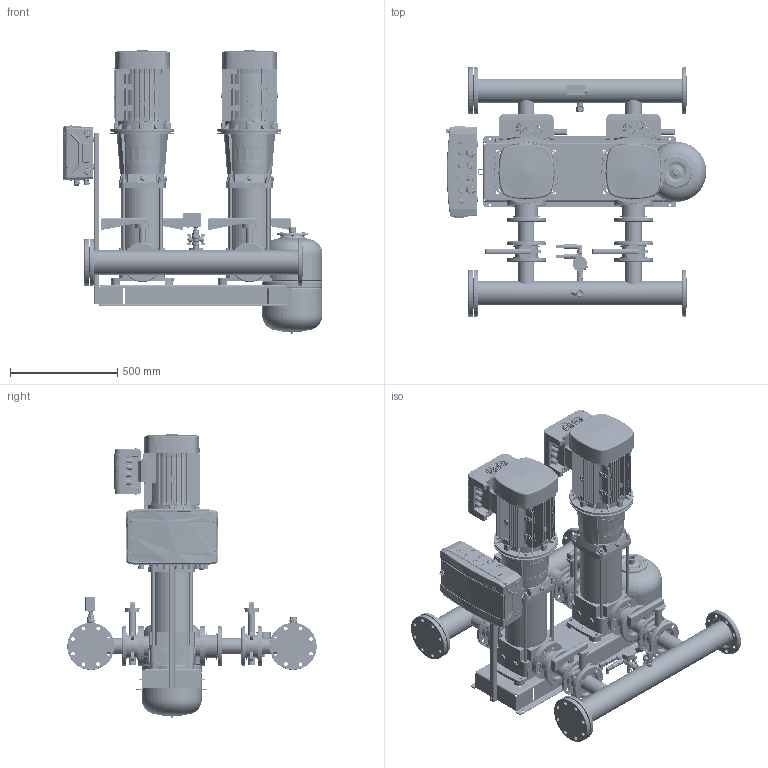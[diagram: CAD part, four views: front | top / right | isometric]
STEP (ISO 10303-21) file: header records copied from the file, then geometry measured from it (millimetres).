
FILE_DESCRIPTION(('CATIA V5 STEP Exchange','CAx-IF Rec.Pracs.--- Model Styling and Organization---1.4--- 2014-01-23','CAx-IF Rec.Pracs.---3D Tessellated Data Validation Properties---0.5---2014-09-14'),'2;1');
FILE_NAME('C:\Users\78432\YandexDisk\Drawings and 3D\3D Hydro Booster\Hydro-ME 3D\Hydro Models\Hydro ME 2 CRV32-xx\Hydro ME 2 CRVE32-4.stp','2023-09-20T13:30:07+00:00',('none'),('none'),'CATIA Version 5-6 Release 2019 SP6','CATIA V5 STEP AP242 v1','none');
FILE_SCHEMA(('AP242_MANAGED_MODEL_BASED_3D_ENGINEERING_MIM_LF {1 0 10303 442 1 1 4}'));
Products named in the file (52): Hydro ME 2 CRVE32-4; 92051011; CRV32-4 set; CRV 32-4_A_DIN_7.5kW; Base; Flange.1; Flange.2; Sleeve; Pumphead; Staybolt.1; Staybolt.2; Staybolt.3; Staybolt.4; AirVent; Motor; Plug; Non-Return Valve DN65 cpl.; 92802786; 00id2586; Buttefly Valve DN65 cpl.; 92802749; 96619619; 91040447; 91070072; 99110036; SAJ PDH30 4-7,5kW; 97941447; 405801; 91041068; 91070074; 97941484; 99110038; 00ID6959; Holder and CP 18mod; 92878909; Control ME (18mod); 2 sensors + manometer cpl.; manometr 16 bar; RPD-I-G1_2; 9021-01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
Assembly tree (69 placements, depth 4):
  Hydro ME 2 CRVE32-4
    92051011
    CRV32-4 set  x2
      CRV 32-4_A_DIN_7.5kW
        Base
        Flange.1
        Flange.2
        Sleeve
        Pumphead
        Staybolt.1
        Staybolt.2
        Staybolt.3
        Staybolt.4
        AirVent
        Motor
        Plug
      Non-Return Valve DN65 cpl.
        92802786
        00id2586  x2
      Buttefly Valve DN65 cpl.
        92802749
        00id2586  x2
      96619619
        91040447
        91070072  x2
        99110036  x2
      SAJ PDH30 4-7,5kW
    97941447  x2
      405801
      91041068
      91070072
      91070074
      97941484
      99110036
      99110038
    00ID6959  x2
    Holder and CP 18mod
      92878909
      Control ME (18mod)
    2 sensors + manometer cpl.
      manometr 16 bar
      RPD-I-G1_2  x2
      9021-01
      2070 1/2-1/2
      _2020 1/2-1/2
      98594078
    Tank 24L cpl.
      DN20_FF_BF_47.300.20
      9021-03
    Relay cpl.
      Relay RD-2R
      DN20_FF_BF_47.300.20
      2530 3/4-1/2
      _2530 1/2-1/4
    91078139
  WAV-24(D140 1'')
Bounding box: 1216.82 x 1164.37 x 1323.63 mm (x, y, z)
Volume: 95425233.1 mm3; surface area: 11966915.4 mm2
Topology: 222 solids, 272 shells, 23385 faces, 67804 edges, 45760 vertices
Faces by surface type: plane 9910, cylinder 5669, bspline 5566, cone 1537, torus 570, sphere 133
Entity records: 658706 total; most frequent: CARTESIAN_POINT 338318, ORIENTED_EDGE 82457, EDGE_CURVE 41769, DIRECTION 37981, VERTEX_POINT 28030, VECTOR 17936, LINE 17936, B_SPLINE_CURVE_WITH_KNOTS 16721
